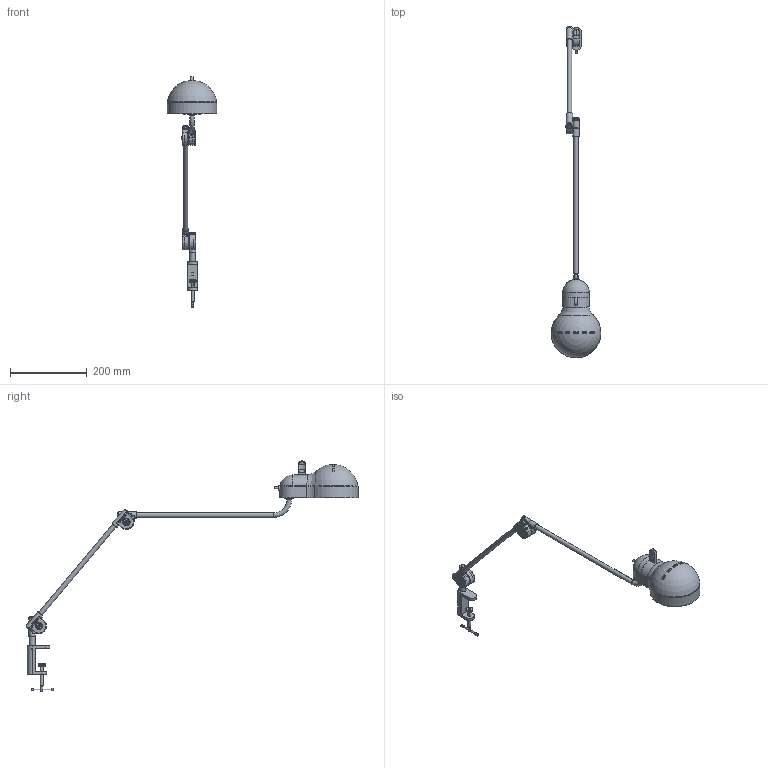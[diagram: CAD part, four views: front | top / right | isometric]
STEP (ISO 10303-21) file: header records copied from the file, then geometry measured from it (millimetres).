
FILE_DESCRIPTION(/* description */ ('Unknown'),/* implementation_level */ '2;1');
FILE_NAME(/* name */ '9071',/* time_stamp */ '2021-02-10T10:10:07+01:00',/* author */ ('Unknown'),/* organization */ ('Unknown'),/* preprocessor_version */ 'ST-DEVELOPER v16.7',/* originating_system */ 'DEX',/* authorisation */ $);
FILE_SCHEMA (('AUTOMOTIVE_DESIGN {1 0 10303 214 3 1 1}'));
Products named in the file (55): 9071-9072-9073-9074-9075; 151001524142; 212000027013; 151001523994; 210000104013; 061000327352; 225000055013; 151001522710; H1291-5; I1301-5; F1220-9; H1271-5; 152000338142; 213000009994_schiacciato; 061000329352; 061000329352_01; 061000329352_02; 155000564012; H1269-5; 060000109351; ET0045; 210000007013; 060000108351; 155000568140; 225000057013; 155000567002; 151001521994; 155000549002; 155000571055; 155000565002; 015000171000; R1P1410; O1896-9; H1268-5; 005000051351; 005000049352; 005000050351; O2127-9; 210000072013; 155000550002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
Assembly tree (80 placements, depth 3):
  9071-9072-9073-9074-9075
    151001524142
    212000027013  x4
    151001523994
    210000104013  x2
    061000327352
    225000055013  x2
    151001522710
    H1291-5  x2
    I1301-5
    F1220-9
    H1271-5  x2
    152000338142
    213000009994_schiacciato  x3
    061000329352
      061000329352_01
      061000329352_02
    155000564012
    H1269-5
    060000109351  x6
    ET0045
    210000007013  x2
    060000108351
    155000568140
    225000057013
    155000567002
    151001521994
    155000549002
    155000571055
    155000565002  x2
    015000171000
    R1P1410
    O1896-9
    H1268-5  x2
    005000051351
    005000049352
    005000050351
    O2127-9
    210000072013
    155000550002
    R3956-9
    155000546002
    155000548002
    151001525002  x2
    210000006013  x2
    155000566002  x2
    011000141000
    R1P1710  x2
    131000132142
    060000228352  x3
    061000325352  x2
    131000131142
    061000326352  x2
    225000056013
    067000097352  x2
Bounding box: 129.93 x 867.78 x 601.77 mm (x, y, z)
Volume: 262685.4 mm3; surface area: 316766.3 mm2
Topology: 81 solids, 82 shells, 2142 faces, 5148 edges, 3270 vertices
Faces by surface type: plane 1096, cylinder 603, bspline 164, cone 161, torus 83, sphere 35
Full cylindrical faces by diameter (mm): 0.4 x1, 1.6 x3, 2 x1, 2.459 x5, 2.5 x2, 2.599 x2, 2.6 x2, 2.7 x4, 2.98 x5, 3 x12, 3.2 x6, 3.242 x8, 3.3 x2, 3.4 x5, 3.422 x4, 3.5 x7, 3.946 x2, 3.98 x2, 4 x9, 4.2 x2, 4.286 x1, 4.5 x6, 4.644 x4, 5 x2, 5.3 x1, 5.5 x3, 6 x1, 6.2 x4, 6.25 x1, 6.5 x5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
Entity records: 60522 total; most frequent: CARTESIAN_POINT 19183, DIRECTION 7028, ORIENTED_EDGE 6768, EDGE_CURVE 3384, AXIS2_PLACEMENT_3D 2655, VERTEX_POINT 2312, FACE_BOUND 2040, EDGE_LOOP 2036
